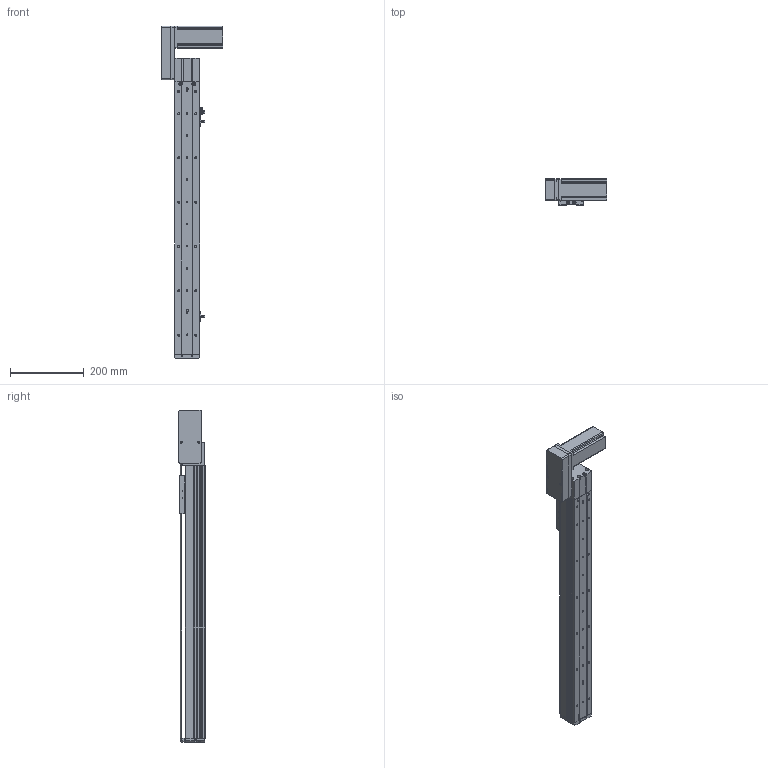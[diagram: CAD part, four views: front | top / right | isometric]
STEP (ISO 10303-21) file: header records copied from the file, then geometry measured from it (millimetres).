
FILE_DESCRIPTION (( 'STEP AP214' ), '1' );
FILE_NAME ('KSD68BS-S550-MRB-CM.STEP', '2019-11-06T07:23:45', ( '微软用户' ), ( '微软中国' ), 'SwSTEP 2.0', 'SolidWorks 2014', '' );
FILE_SCHEMA (( 'AUTOMOTIVE_DESIGN' ));
Length unit declared in the file: millimetre
Products named in the file (11): KSD68BS-S550-MRB-CM; 悵誘欶奻狟殏; 68宽马达安装板连板上折同步带; 68宽单导轨半封闭同步带主动轮座右; 68单导轨同步带半封闭端板; KSD68BS 550俴最裔啣圉猾敕; 覜茼え68遵圉猾敕; KSD68BS半封闭同步带传动导轨座; U倰嫖萇EEㄜSX672; 台达ECMA－C20604AS伺服电机（400W); KSD68BS 550俴最菁啣圉猾敕
Assembly tree (12 placements, depth 2):
  KSD68BS-S550-MRB-CM
    KSD68BS 550俴最菁啣圉猾敕
    台达ECMA－C20604AS伺服电机（400W)
    U倰嫖萇EEㄜSX672  x3
    KSD68BS半封闭同步带传动导轨座
    覜茼え68遵圉猾敕
    KSD68BS 550俴最裔啣圉猾敕
    68单导轨同步带半封闭端板
    68宽单导轨半封闭同步带主动轮座右
    68宽马达安装板连板上折同步带
    悵誘欶奻狟殏
Bounding box: 167.2 x 70.5 x 899.5 mm (x, y, z)
Volume: 1802486 mm3; surface area: 594330.5 mm2
Topology: 13 solids, 13 shells, 1302 faces, 3708 edges, 2408 vertices
Faces by surface type: cylinder 634, plane 585, cone 83
Entity records: 46633 total; most frequent: CARTESIAN_POINT 8658, ORIENTED_EDGE 6168, DIRECTION 6156, EDGE_CURVE 3084, AXIS2_PLACEMENT_3D 2202, VERTEX_POINT 2032, VECTOR 1752, LINE 1752
